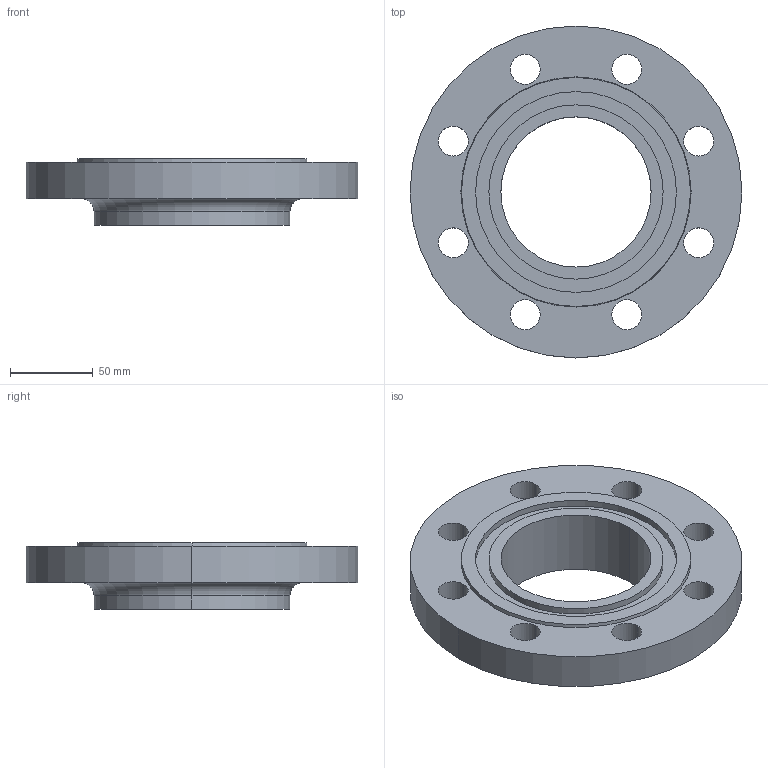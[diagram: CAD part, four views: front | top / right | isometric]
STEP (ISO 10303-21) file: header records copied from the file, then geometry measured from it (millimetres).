
FILE_DESCRIPTION (( 'STEP AP214' ), '1' );
FILE_NAME ('PN40 DN80 Type 12 - Type D Face.STEP', '2019-01-01T19:40:17', ( '' ), ( '' ), 'SwSTEP 2.0', 'SolidWorks 2019', '' );
FILE_SCHEMA (( 'AUTOMOTIVE_DESIGN' ));
Length unit declared in the file: millimetre
Products named in the file (1): PN40 DN80 Type 12 - Type D Face
Bounding box: 200 x 200 x 40 mm (x, y, z)
Volume: 587986.8 mm3; surface area: 89299.6 mm2
Topology: 1 solids, 1 shells, 36 faces, 88 edges, 58 vertices
Faces by surface type: cylinder 26, plane 6, torus 2, cone 2
Entity records: 1166 total; most frequent: DIRECTION 222, CARTESIAN_POINT 183, ORIENTED_EDGE 176, AXIS2_PLACEMENT_3D 97, EDGE_CURVE 88, CIRCLE 60, VERTEX_POINT 58, EDGE_LOOP 58
